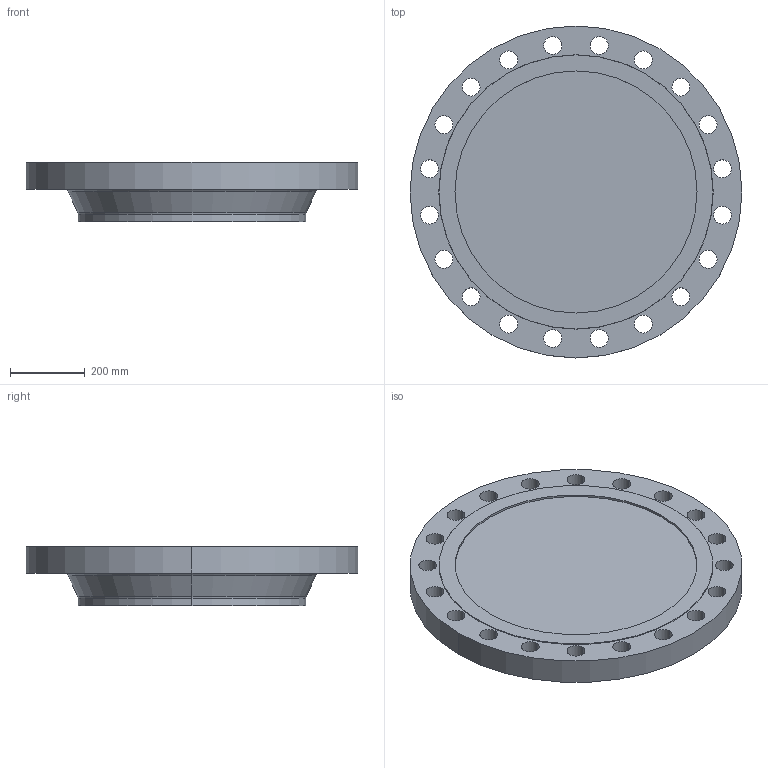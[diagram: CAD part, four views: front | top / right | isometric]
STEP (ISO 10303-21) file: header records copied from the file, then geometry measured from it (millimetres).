
FILE_DESCRIPTION (( 'STEP AP214' ), '1' );
FILE_NAME ('PN40 DN600 Type 21(ii) - Type G Face.STEP', '2018-12-29T04:36:54', ( '' ), ( '' ), 'SwSTEP 2.0', 'SolidWorks 2019', '' );
FILE_SCHEMA (( 'AUTOMOTIVE_DESIGN' ));
Length unit declared in the file: millimetre
Products named in the file (1): PN40 DN600 Type 21(ii) - Type G Face
Bounding box: 890 x 890 x 160 mm (x, y, z)
Volume: 67747439.8 mm3; surface area: 1717403.3 mm2
Topology: 1 solids, 1 shells, 59 faces, 156 edges, 102 vertices
Faces by surface type: cylinder 46, plane 5, torus 4, cone 4
Entity records: 2002 total; most frequent: DIRECTION 382, CARTESIAN_POINT 318, ORIENTED_EDGE 312, AXIS2_PLACEMENT_3D 166, EDGE_CURVE 156, CIRCLE 106, EDGE_LOOP 102, VERTEX_POINT 102
